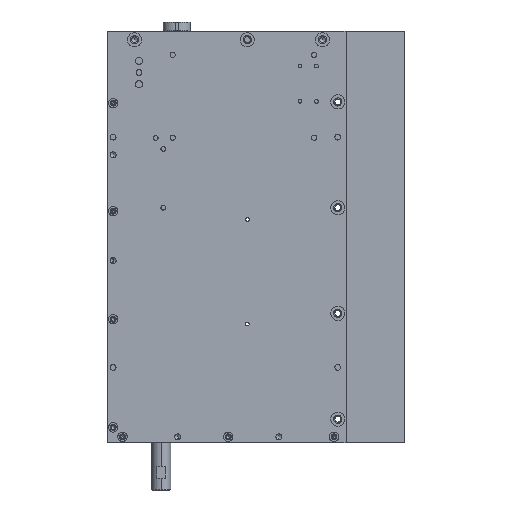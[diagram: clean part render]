
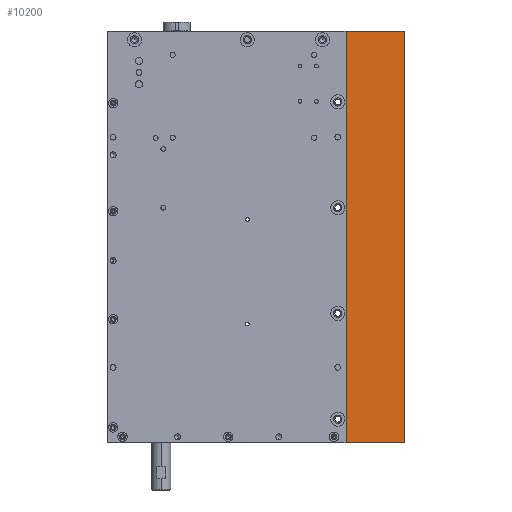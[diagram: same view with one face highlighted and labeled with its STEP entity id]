
A CAD part, front view. The second image highlights one B-rep face of the part: STEP entity #10200.
In plain terms, the highlighted planar face has unit normal (0, -1, 0) as drawn and (-1, 0, 0) by its records, which use the part's own axes.
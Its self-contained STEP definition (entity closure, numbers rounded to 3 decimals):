
#2379 = LINE ( 'NONE', #15417, #9441 ) ;
#2585 = VERTEX_POINT ( 'NONE', #9741 ) ;
#2826 = EDGE_LOOP ( 'NONE', ( #3891, #14862, #5086, #13112 ) ) ;
#3094 = AXIS2_PLACEMENT_3D ( 'NONE', #12683, #4928, #3488 ) ;
#3488 = DIRECTION ( 'NONE',  ( 0., -1., 0. ) ) ;
#3566 = CARTESIAN_POINT ( 'NONE',  ( -3.2, 32.9, 6.35 ) ) ;
#3891 = ORIENTED_EDGE ( 'NONE', *, *, #4046, .T. ) ;
#4046 = EDGE_CURVE ( 'NONE', #2585, #16497, #6296, .T. ) ;
#4304 = LINE ( 'NONE', #6546, #15607 ) ;
#4928 = DIRECTION ( 'NONE',  ( -1., 0., 0. ) ) ;
#4941 = DIRECTION ( 'NONE',  ( 0., 1., 0. ) ) ;
#5086 = ORIENTED_EDGE ( 'NONE', *, *, #13984, .F. ) ;
#5826 = CARTESIAN_POINT ( 'NONE',  ( -3.2, 7.9, 6.35 ) ) ;
#6296 = LINE ( 'NONE', #18733, #17993 ) ;
#6546 = CARTESIAN_POINT ( 'NONE',  ( -3.2, 32.9, 6.35 ) ) ;
#7893 = DIRECTION ( 'NONE',  ( 0., -1., 0. ) ) ;
#8013 = DIRECTION ( 'NONE',  ( 0., 0., 1. ) ) ;
#8216 = CARTESIAN_POINT ( 'NONE',  ( -3.2, 32.9, -168.65 ) ) ;
#8566 = VERTEX_POINT ( 'NONE', #3566 ) ;
#9441 = VECTOR ( 'NONE', #8013, 1000. ) ;
#9741 = CARTESIAN_POINT ( 'NONE',  ( -3.2, 7.9, -168.65 ) ) ;
#10200 = ADVANCED_FACE ( 'NONE', ( #18367 ), #13935, .T. ) ;
#11196 = DIRECTION ( 'NONE',  ( 0., 0., 1. ) ) ;
#11421 = EDGE_CURVE ( 'NONE', #8566, #16497, #4304, .T. ) ;
#12407 = VECTOR ( 'NONE', #4941, 1000. ) ;
#12434 = CARTESIAN_POINT ( 'NONE',  ( -3.2, 32.9, -168.65 ) ) ;
#12683 = CARTESIAN_POINT ( 'NONE',  ( -3.2, 7.9, -162.3 ) ) ;
#13112 = ORIENTED_EDGE ( 'NONE', *, *, #16140, .F. ) ;
#13935 = PLANE ( 'NONE',  #3094 ) ;
#13984 = EDGE_CURVE ( 'NONE', #15365, #8566, #2379, .T. ) ;
#14862 = ORIENTED_EDGE ( 'NONE', *, *, #11421, .F. ) ;
#15365 = VERTEX_POINT ( 'NONE', #8216 ) ;
#15417 = CARTESIAN_POINT ( 'NONE',  ( -3.2, 32.9, -162.3 ) ) ;
#15607 = VECTOR ( 'NONE', #7893, 1000. ) ;
#16140 = EDGE_CURVE ( 'NONE', #2585, #15365, #16369, .T. ) ;
#16369 = LINE ( 'NONE', #12434, #12407 ) ;
#16497 = VERTEX_POINT ( 'NONE', #5826 ) ;
#17993 = VECTOR ( 'NONE', #11196, 1000. ) ;
#18367 = FACE_OUTER_BOUND ( 'NONE', #2826, .T. ) ;
#18733 = CARTESIAN_POINT ( 'NONE',  ( -3.2, 7.9, -162.3 ) ) ;
